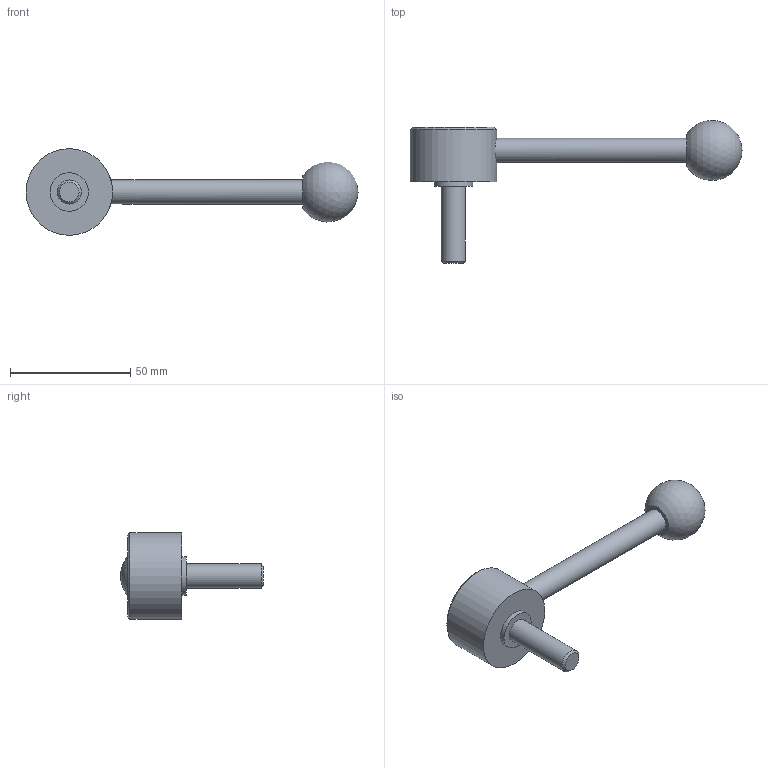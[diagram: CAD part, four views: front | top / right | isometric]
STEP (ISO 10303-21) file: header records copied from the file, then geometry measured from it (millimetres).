
FILE_DESCRIPTION( ( 'STEP AP203' ), '1' );
FILE_NAME( 'C:/Temp/Ganter_Step_05_03_2020/data/2_1/gn_125/gn_125_ms/gn_125_ms_d/Flat Adjustable Lever GN 125-36-M10-32-D.stp', '2020-03-05T11:00:48', ( 'License CC BY-ND 4.0' ), ( 'CADENAS' ), ' ', 'PARTsolutions', ' ' );
FILE_SCHEMA( ( 'CONFIG_CONTROL_DESIGN' ) );
Length unit declared in the file: millimetre
Products named in the file (1): _Flat Adjustable Lever GN 125-36-M10-32-D
Bounding box: 138 x 59.38 x 36 mm (x, y, z)
Volume: 39867 mm3; surface area: 9907 mm2
Topology: 1 solids, 1 shells, 14 faces, 23 edges, 15 vertices
Faces by surface type: plane 6, cylinder 5, cone 2, sphere 1
Full cylindrical faces by diameter (mm): 10 x2, 16 x1, 26 x1, 36 x1
Entity records: 392 total; most frequent: CARTESIAN_POINT 115, DIRECTION 54, AXIS2_PLACEMENT_3D 27, EDGE_LOOP 26, ORIENTED_EDGE 26, FACE_OUTER_BOUND 19, ADVANCED_FACE 14, VERTEX_POINT 14
